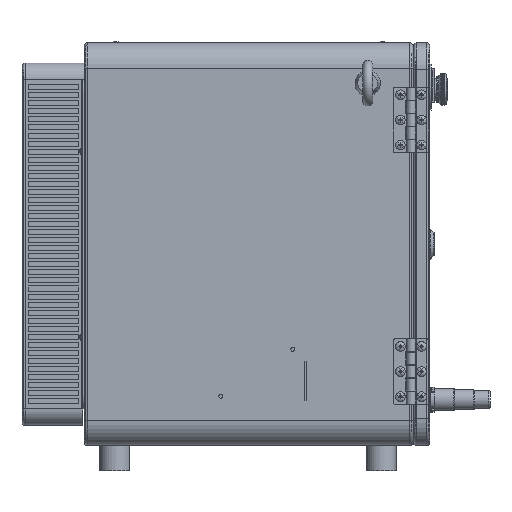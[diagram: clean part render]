
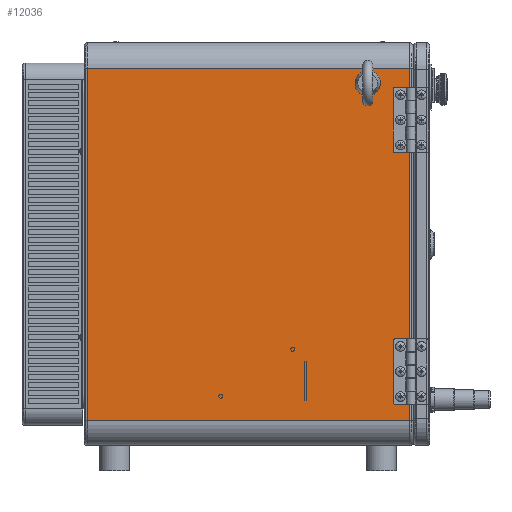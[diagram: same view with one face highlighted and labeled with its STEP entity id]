
A CAD part, left-side view. The second image highlights one B-rep face of the part: STEP entity #12036.
In plain terms, the highlighted planar face has unit normal (-1, 0, 0).
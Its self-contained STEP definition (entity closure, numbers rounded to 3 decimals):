
#2830=FACE_BOUND('',#24134,.T.);
#2831=FACE_BOUND('',#24135,.T.);
#5055=PLANE('',#101168);
#8121=CIRCLE('',#100405,1.5);
#8122=CIRCLE('',#100407,1.5);
#8232=CIRCLE('',#100658,1.5);
#8233=CIRCLE('',#100660,1.5);
#8253=CIRCLE('',#100708,12.65);
#12036=ADVANCED_FACE('',(#2830,#2831),#5055,.F.);
#24134=EDGE_LOOP('',(#43264,#43265,#43266,#43267,#43268,#43269,#43270,#43271,
#43272,#43273,#43274,#43275,#43276,#43277,#43278,#43279));
#24135=EDGE_LOOP('',(#43280));
#43264=ORIENTED_EDGE('',*,*,#73265,.F.);
#43265=ORIENTED_EDGE('',*,*,#71605,.T.);
#43266=ORIENTED_EDGE('',*,*,#71646,.T.);
#43267=ORIENTED_EDGE('',*,*,#71627,.F.);
#43268=ORIENTED_EDGE('',*,*,#71647,.T.);
#43269=ORIENTED_EDGE('',*,*,#71625,.F.);
#43270=ORIENTED_EDGE('',*,*,#73262,.F.);
#43271=ORIENTED_EDGE('',*,*,#73274,.T.);
#43272=ORIENTED_EDGE('',*,*,#73099,.T.);
#43273=ORIENTED_EDGE('',*,*,#73275,.F.);
#43274=ORIENTED_EDGE('',*,*,#73268,.F.);
#43275=ORIENTED_EDGE('',*,*,#72471,.T.);
#43276=ORIENTED_EDGE('',*,*,#72466,.T.);
#43277=ORIENTED_EDGE('',*,*,#72447,.F.);
#43278=ORIENTED_EDGE('',*,*,#72469,.T.);
#43279=ORIENTED_EDGE('',*,*,#72470,.F.);
#43280=ORIENTED_EDGE('',*,*,#72695,.T.);
#60841=VERTEX_POINT('',#146244);
#60872=VERTEX_POINT('',#146310);
#60874=VERTEX_POINT('',#146313);
#60890=VERTEX_POINT('',#146351);
#60891=VERTEX_POINT('',#146355);
#60892=VERTEX_POINT('',#146356);
#61235=VERTEX_POINT('',#148633);
#61449=VERTEX_POINT('',#149855);
#61450=VERTEX_POINT('',#149856);
#61451=VERTEX_POINT('',#149861);
#61456=VERTEX_POINT('',#149891);
#61457=VERTEX_POINT('',#149895);
#61609=VERTEX_POINT('',#150962);
#61893=VERTEX_POINT('',#151964);
#61899=VERTEX_POINT('',#151980);
#61987=VERTEX_POINT('',#152302);
#61991=VERTEX_POINT('',#152314);
#71605=EDGE_CURVE('',#60874,#60872,#83115,.T.);
#71625=EDGE_CURVE('',#60841,#60890,#83128,.T.);
#71627=EDGE_CURVE('',#60891,#60892,#83130,.T.);
#71646=EDGE_CURVE('',#60872,#60892,#8121,.T.);
#71647=EDGE_CURVE('',#60891,#60890,#8122,.T.);
#72447=EDGE_CURVE('',#61449,#61450,#83658,.T.);
#72466=EDGE_CURVE('',#61456,#61450,#8232,.T.);
#72469=EDGE_CURVE('',#61449,#61457,#8233,.T.);
#72470=EDGE_CURVE('',#61235,#61457,#83674,.T.);
#72471=EDGE_CURVE('',#61451,#61456,#83675,.T.);
#72695=EDGE_CURVE('',#61609,#61609,#8253,.T.);
#73099=EDGE_CURVE('',#61893,#61899,#84065,.T.);
#73262=EDGE_CURVE('',#61991,#60841,#84142,.T.);
#73265=EDGE_CURVE('',#60874,#61235,#84145,.T.);
#73268=EDGE_CURVE('',#61451,#61987,#84148,.T.);
#73274=EDGE_CURVE('',#61991,#61893,#84151,.T.);
#73275=EDGE_CURVE('',#61987,#61899,#84152,.T.);
#83115=LINE('',#146312,#92049);
#83128=LINE('',#146350,#92062);
#83130=LINE('',#146354,#92064);
#83658=LINE('',#149854,#92592);
#83674=LINE('',#149898,#92608);
#83675=LINE('',#149900,#92609);
#84065=LINE('',#151981,#92999);
#84142=LINE('',#152315,#93076);
#84145=LINE('',#152318,#93079);
#84148=LINE('',#152321,#93082);
#84151=LINE('',#152331,#93085);
#84152=LINE('',#152332,#93086);
#92049=VECTOR('',#113758,1.);
#92062=VECTOR('',#113789,1.);
#92064=VECTOR('',#113793,1.);
#92592=VECTOR('',#114829,1.);
#92608=VECTOR('',#114883,1.);
#92609=VECTOR('',#114886,1.);
#92999=VECTOR('',#115944,1.);
#93076=VECTOR('',#116351,1.);
#93079=VECTOR('',#116354,1.);
#93082=VECTOR('',#116357,1.);
#93085=VECTOR('',#116372,1.);
#93086=VECTOR('',#116373,1.);
#100405=AXIS2_PLACEMENT_3D('',#146391,#113838,#113839);
#100407=AXIS2_PLACEMENT_3D('',#146393,#113842,#113843);
#100658=AXIS2_PLACEMENT_3D('',#149890,#114873,#114874);
#100660=AXIS2_PLACEMENT_3D('',#149896,#114879,#114880);
#100708=AXIS2_PLACEMENT_3D('',#150961,#115121,#115122);
#101168=AXIS2_PLACEMENT_3D('',#152333,#116374,#116375);
#113758=DIRECTION('',(0.,1.,0.));
#113789=DIRECTION('',(0.,1.,0.));
#113793=DIRECTION('',(0.,0.,-1.));
#113838=DIRECTION('',(1.,0.,0.));
#113839=DIRECTION('',(0.,0.,1.));
#113842=DIRECTION('',(1.,0.,0.));
#113843=DIRECTION('',(0.,0.,1.));
#114829=DIRECTION('',(0.,0.,-1.));
#114873=DIRECTION('',(1.,0.,0.));
#114874=DIRECTION('',(0.,0.,1.));
#114879=DIRECTION('',(1.,0.,0.));
#114880=DIRECTION('',(0.,0.,1.));
#114883=DIRECTION('',(0.,1.,0.));
#114886=DIRECTION('',(0.,1.,0.));
#115121=DIRECTION('',(1.,0.,0.));
#115122=DIRECTION('',(0.,-1.,0.));
#115944=DIRECTION('',(0.,0.,-1.));
#116351=DIRECTION('',(0.,0.,-1.));
#116354=DIRECTION('',(0.,0.,-1.));
#116357=DIRECTION('',(0.,0.,-1.));
#116372=DIRECTION('',(0.,1.,0.));
#116373=DIRECTION('',(0.,1.,0.));
#116374=DIRECTION('',(1.,0.,0.));
#116375=DIRECTION('',(0.,0.,1.));
#146244=CARTESIAN_POINT('',(-241.5,-226.,356.498));
#146310=CARTESIAN_POINT('',(-241.5,-211.,291.498));
#146312=CARTESIAN_POINT('',(-241.5,-227.,291.498));
#146313=CARTESIAN_POINT('',(-241.5,-226.,291.498));
#146350=CARTESIAN_POINT('',(-241.5,-227.,356.498));
#146351=CARTESIAN_POINT('',(-241.5,-211.,356.498));
#146354=CARTESIAN_POINT('',(-241.5,-209.5,356.498));
#146355=CARTESIAN_POINT('',(-241.5,-209.5,354.998));
#146356=CARTESIAN_POINT('',(-241.5,-209.5,292.998));
#146391=CARTESIAN_POINT('',(-241.5,-211.,292.998));
#146393=CARTESIAN_POINT('',(-241.5,-211.,354.998));
#148633=CARTESIAN_POINT('',(-241.5,-226.,106.498));
#149854=CARTESIAN_POINT('',(-241.5,-209.5,106.498));
#149855=CARTESIAN_POINT('',(-241.5,-209.5,104.998));
#149856=CARTESIAN_POINT('',(-241.5,-209.5,42.998));
#149861=CARTESIAN_POINT('',(-241.5,-226.,41.498));
#149890=CARTESIAN_POINT('',(-241.5,-211.,42.998));
#149891=CARTESIAN_POINT('',(-241.5,-211.,41.498));
#149895=CARTESIAN_POINT('',(-241.5,-211.,106.498));
#149896=CARTESIAN_POINT('',(-241.5,-211.,104.998));
#149898=CARTESIAN_POINT('',(-241.5,-227.,106.498));
#149900=CARTESIAN_POINT('',(-241.5,-227.,41.498));
#150961=CARTESIAN_POINT('',(-241.5,-184.,360.5));
#150962=CARTESIAN_POINT('',(-241.5,-196.65,360.5));
#151964=CARTESIAN_POINT('',(-241.5,94.5,375.5));
#151980=CARTESIAN_POINT('',(-241.5,94.5,25.5));
#151981=CARTESIAN_POINT('',(-241.5,94.5,25.5));
#152302=CARTESIAN_POINT('',(-241.5,-226.,25.5));
#152314=CARTESIAN_POINT('',(-241.5,-226.,375.5));
#152315=CARTESIAN_POINT('',(-241.5,-226.,200.5));
#152318=CARTESIAN_POINT('',(-241.5,-226.,200.5));
#152321=CARTESIAN_POINT('',(-241.5,-226.,200.5));
#152331=CARTESIAN_POINT('',(-241.5,-229.,375.5));
#152332=CARTESIAN_POINT('',(-241.5,-229.,25.5));
#152333=CARTESIAN_POINT('',(-241.5,-229.,400.5));
